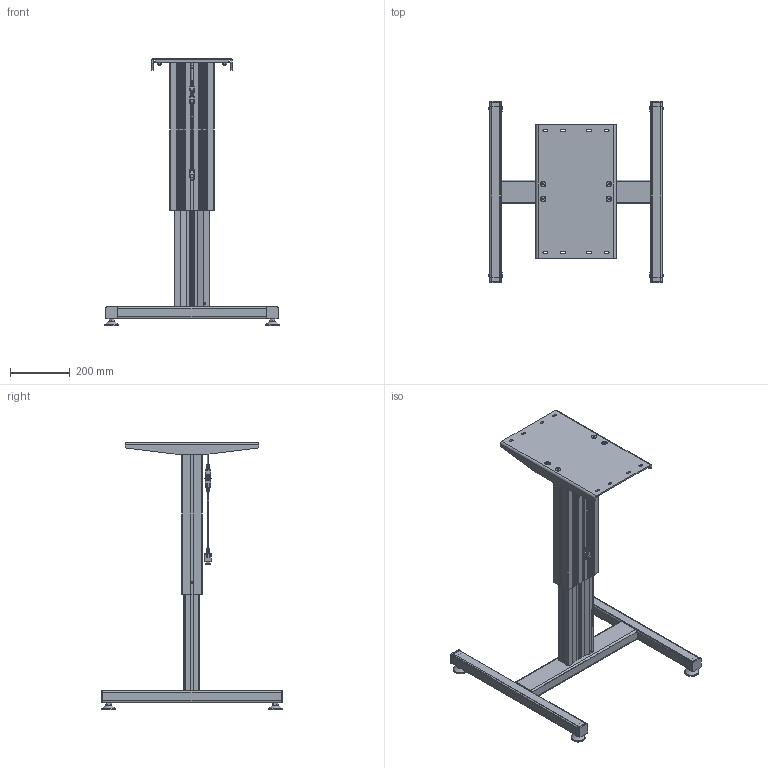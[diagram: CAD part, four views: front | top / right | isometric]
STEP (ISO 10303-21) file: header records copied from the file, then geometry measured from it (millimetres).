
FILE_DESCRIPTION(/* description */ ('Unknown'),/* implementation_level */ '2;1');
FILE_NAME(/* name */ 'Untergestell SM-1 1430 XX XX_01-Ausgefahren',/* time_stamp */ '2022-01-27T14:00:26+01:00',/* author */ ('Unknown'),/* organization */ ('Unknown'),/* preprocessor_version */ 'ST-DEVELOPER v18.1',/* originating_system */ 'Solid Edge',/* authorisation */ 'Unknown');
FILE_SCHEMA (('AUTOMOTIVE_DESIGN {1 0 10303 214 3 1 1}'));
Products named in the file (25): Untergestell SM-1 1430 XX XX; 902.00003; 126.00138; 119.00315; 119.00314; 142.00166; 124.00201_oa_0; 142.00241; 110.00104_oa_1; 115.00200_oa_2; 124.00151; Kabel Motor Sx; 142.00343; 115.00166; 127.00328; 142.00279; 142.00068; 115.00167; 127.00326; Fuss SM-1 Stütze; Fuss SM-1 Querbalken; 113.00006; 113.00006-ohne Mutter; Mutter M10; 142.00261
Assembly tree (42 placements, depth 4):
  Untergestell SM-1 1430 XX XX
    902.00003
      126.00138
      119.00315
      119.00314
      142.00166  x4
      124.00201_oa_0
      142.00241  x2
      110.00104_oa_1
      115.00200_oa_2
      124.00151
      Kabel Motor Sx
      142.00343  x2
    115.00166
      127.00328
      142.00279  x4
      142.00068  x4
    115.00167
      127.00326
        Fuss SM-1 Stütze  x2
        Fuss SM-1 Querbalken
      113.00006  x4
        113.00006-ohne Mutter
        Mutter M10
      142.00261  x4
Bounding box: 587 x 610 x 898 mm (x, y, z)
Volume: 3974841.6 mm3; surface area: 1986809.5 mm2
Topology: 37 solids, 37 shells, 3942 faces, 10896 edges, 7184 vertices
Faces by surface type: plane 2203, cylinder 1403, cone 144, torus 113, bspline 73, sphere 6
Full cylindrical faces by diameter (mm): 1.5 x6, 1.82 x6, 2.459 x1, 2.7 x6, 3.242 x2, 3.4 x1, 4 x4, 5 x5, 5.5 x4, 6 x3, 6.647 x4, 7 x2, 8 x6, 8.376 x8, 8.5 x8, 8.7 x4, 9 x4, 9.5 x4, 10 x4, 15 x4, 19 x4, 25 x8, 29 x4, 30 x2, 35 x4, 39 x4, 47 x4
Entity records: 135963 total; most frequent: CARTESIAN_POINT 24380, ORIENTED_EDGE 19672, DIRECTION 19294, EDGE_CURVE 9836, VERTEX_POINT 6571, AXIS2_PLACEMENT_3D 6469, LINE 6356, VECTOR 6356
